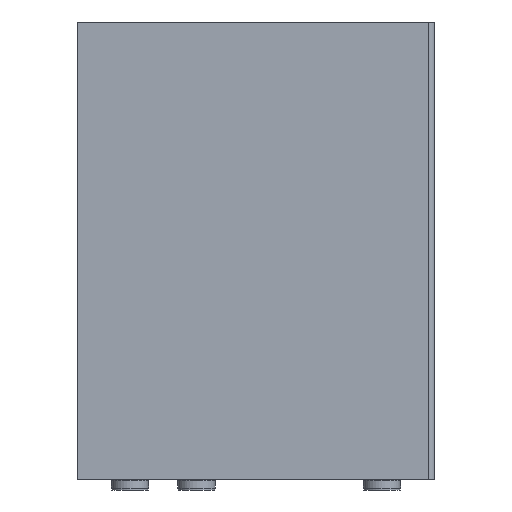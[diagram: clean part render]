
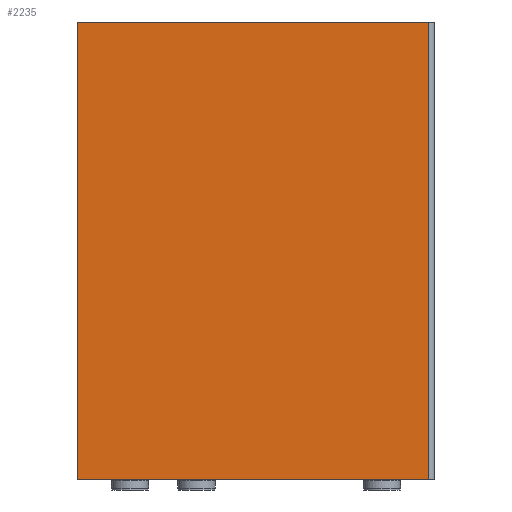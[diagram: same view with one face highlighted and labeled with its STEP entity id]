
A CAD part, left-side view. The second image highlights one B-rep face of the part: STEP entity #2235.
In plain terms, the highlighted planar face has unit normal (-1, 0, 0).
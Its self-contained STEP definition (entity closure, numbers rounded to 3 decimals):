
#77=PLANE('',#2435);
#191=FACE_OUTER_BOUND('',#339,.T.);
#339=EDGE_LOOP('',(#1536,#1537,#1538,#1539));
#500=LINE('',#3330,#712);
#509=LINE('',#3352,#721);
#512=LINE('',#3357,#724);
#513=LINE('',#3359,#725);
#712=VECTOR('',#2684,10.);
#721=VECTOR('',#2709,10.);
#724=VECTOR('',#2714,10.);
#725=VECTOR('',#2717,10.);
#992=VERTEX_POINT('',#3327);
#993=VERTEX_POINT('',#3329);
#998=VERTEX_POINT('',#3351);
#999=VERTEX_POINT('',#3355);
#1189=EDGE_CURVE('',#992,#993,#500,.T.);
#1200=EDGE_CURVE('',#998,#993,#509,.T.);
#1203=EDGE_CURVE('',#999,#992,#512,.T.);
#1204=EDGE_CURVE('',#998,#999,#513,.T.);
#1536=ORIENTED_EDGE('',*,*,#1189,.F.);
#1537=ORIENTED_EDGE('',*,*,#1203,.F.);
#1538=ORIENTED_EDGE('',*,*,#1204,.F.);
#1539=ORIENTED_EDGE('',*,*,#1200,.T.);
#2235=ADVANCED_FACE('',(#191),#77,.F.);
#2435=AXIS2_PLACEMENT_3D('',#3364,#2726,#2727);
#2684=DIRECTION('',(0.,0.,-1.));
#2709=DIRECTION('',(0.,-1.,0.));
#2714=DIRECTION('',(0.,-1.,0.));
#2717=DIRECTION('',(0.,0.,1.));
#2726=DIRECTION('center_axis',(1.,0.,0.));
#2727=DIRECTION('ref_axis',(0.,0.,-1.));
#3327=CARTESIAN_POINT('',(-340.,2.,240.5));
#3329=CARTESIAN_POINT('',(-340.,2.,-240.5));
#3330=CARTESIAN_POINT('',(-340.,2.,0.));
#3351=CARTESIAN_POINT('',(-340.,371.,-240.5));
#3352=CARTESIAN_POINT('',(-340.,371.,-240.5));
#3355=CARTESIAN_POINT('',(-340.,371.,240.5));
#3357=CARTESIAN_POINT('',(-340.,371.,240.5));
#3359=CARTESIAN_POINT('',(-340.,371.,-240.5));
#3364=CARTESIAN_POINT('Origin',(-340.,-337.25,0.));
